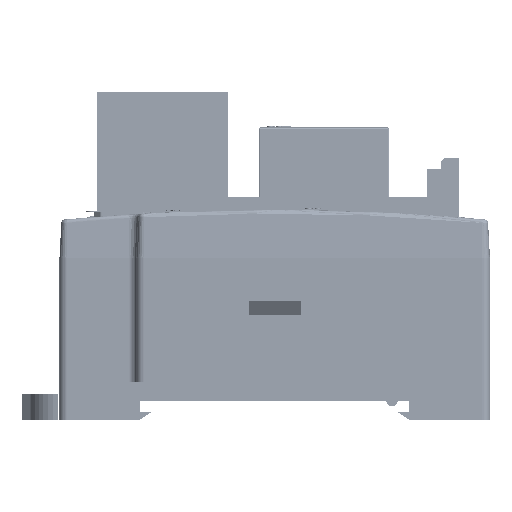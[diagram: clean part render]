
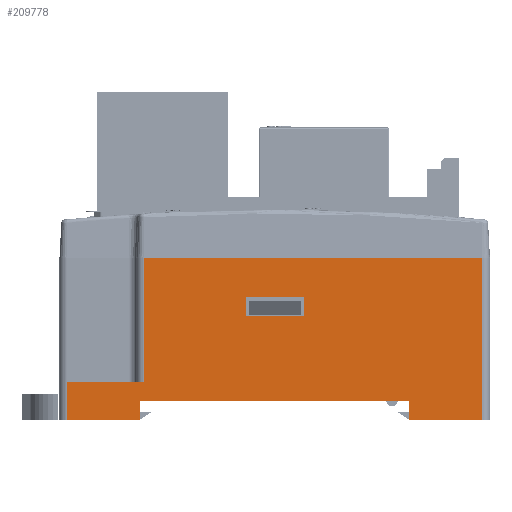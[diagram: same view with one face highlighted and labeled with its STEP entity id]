
A CAD part, front view. The second image highlights one B-rep face of the part: STEP entity #209778.
In plain terms, the highlighted planar face has unit normal (0, -1, 0).
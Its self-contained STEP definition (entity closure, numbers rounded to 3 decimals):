
#12469=DIRECTION('',(0.,0.,-1.));
#12470=VECTOR('',#12469,21.);
#12471=CARTESIAN_POINT('',(27.,-85.,0.));
#12472=LINE('',#12471,#12470);
#12529=DIRECTION('',(0.,0.,-1.));
#12530=VECTOR('',#12529,2.5);
#12531=CARTESIAN_POINT('',(17.5,-85.,-18.5));
#12532=LINE('',#12531,#12530);
#13124=DIRECTION('',(0.,0.,1.));
#13125=VECTOR('',#13124,16.1);
#13126=CARTESIAN_POINT('',(-17.,-85.,-16.1));
#13127=LINE('',#13126,#13125);
#13132=DIRECTION('',(1.,0.,0.));
#13133=VECTOR('',#13132,9.5);
#13134=CARTESIAN_POINT('',(17.5,-85.,-21.));
#13135=LINE('',#13134,#13133);
#13136=DIRECTION('',(1.,0.,0.));
#13137=VECTOR('',#13136,9.5);
#13138=CARTESIAN_POINT('',(-27.,-85.,-21.));
#13139=LINE('',#13138,#13137);
#13144=DIRECTION('',(0.,0.,1.));
#13145=VECTOR('',#13144,2.5);
#13146=CARTESIAN_POINT('',(-3.75,-85.,-7.5));
#13147=LINE('',#13146,#13145);
#13216=DIRECTION('',(1.,0.,0.));
#13217=VECTOR('',#13216,7.5);
#13218=CARTESIAN_POINT('',(-3.75,-85.,-5.));
#13219=LINE('',#13218,#13217);
#13365=DIRECTION('',(0.,0.,-1.));
#13366=VECTOR('',#13365,2.5);
#13367=CARTESIAN_POINT('',(3.75,-85.,-5.));
#13368=LINE('',#13367,#13366);
#13373=DIRECTION('',(-1.,0.,0.));
#13374=VECTOR('',#13373,7.5);
#13375=CARTESIAN_POINT('',(3.75,-85.,-7.5));
#13376=LINE('',#13375,#13374);
#13381=DIRECTION('',(-1.,0.,0.));
#13382=VECTOR('',#13381,35.);
#13383=CARTESIAN_POINT('',(17.5,-85.,-18.5));
#13384=LINE('',#13383,#13382);
#13389=DIRECTION('',(0.,0.,1.));
#13390=VECTOR('',#13389,2.5);
#13391=CARTESIAN_POINT('',(-17.5,-85.,-21.));
#13392=LINE('',#13391,#13390);
#80267=DIRECTION('',(1.,0.,0.));
#80268=VECTOR('',#80267,10.);
#80269=CARTESIAN_POINT('',(-27.,-85.,-16.1));
#80270=LINE('',#80269,#80268);
#80304=DIRECTION('',(0.,0.,1.));
#80305=VECTOR('',#80304,4.9);
#80306=CARTESIAN_POINT('',(-27.,-85.,-21.));
#80307=LINE('',#80306,#80305);
#80397=DIRECTION('',(1.,0.,0.));
#80398=VECTOR('',#80397,44.);
#80399=CARTESIAN_POINT('',(-17.,-85.,0.));
#80400=LINE('',#80399,#80398);
#186379=CARTESIAN_POINT('',(-17.5,-85.,-21.));
#186380=VERTEX_POINT('',#186379);
#186381=CARTESIAN_POINT('',(-27.,-85.,-21.));
#186382=VERTEX_POINT('',#186381);
#186409=CARTESIAN_POINT('',(27.,-85.,-21.));
#186410=VERTEX_POINT('',#186409);
#186411=CARTESIAN_POINT('',(17.5,-85.,-21.));
#186412=VERTEX_POINT('',#186411);
#186481=CARTESIAN_POINT('',(17.5,-85.,-18.5));
#186482=CARTESIAN_POINT('',(-17.5,-85.,-18.5));
#186483=VERTEX_POINT('',#186481);
#186484=VERTEX_POINT('',#186482);
#186485=CARTESIAN_POINT('',(-27.,-85.,-16.1));
#186486=VERTEX_POINT('',#186485);
#186487=CARTESIAN_POINT('',(-17.,-85.,-16.1));
#186488=VERTEX_POINT('',#186487);
#186489=CARTESIAN_POINT('',(-3.75,-85.,-7.5));
#186490=CARTESIAN_POINT('',(-3.75,-85.,-5.));
#186491=VERTEX_POINT('',#186489);
#186492=VERTEX_POINT('',#186490);
#186493=CARTESIAN_POINT('',(3.75,-85.,-7.5));
#186494=VERTEX_POINT('',#186493);
#186495=CARTESIAN_POINT('',(3.75,-85.,-5.));
#186496=VERTEX_POINT('',#186495);
#193704=CARTESIAN_POINT('',(-17.,-85.,0.));
#193705=CARTESIAN_POINT('',(27.,-85.,0.));
#193706=VERTEX_POINT('',#193704);
#193707=VERTEX_POINT('',#193705);
#209745=CARTESIAN_POINT('',(0.,-85.,-10.5));
#209746=DIRECTION('',(0.,1.,0.));
#209747=DIRECTION('',(1.,0.,0.));
#209748=AXIS2_PLACEMENT_3D('',#209745,#209746,#209747);
#209749=PLANE('',#209748);
#209750=ORIENTED_EDGE('',*,*,#208556,.T.);
#209751=ORIENTED_EDGE('',*,*,#208577,.F.);
#209752=ORIENTED_EDGE('',*,*,#208675,.F.);
#209754=ORIENTED_EDGE('',*,*,#209753,.T.);
#209756=ORIENTED_EDGE('',*,*,#209755,.F.);
#209758=ORIENTED_EDGE('',*,*,#209757,.F.);
#209760=ORIENTED_EDGE('',*,*,#209759,.T.);
#209762=ORIENTED_EDGE('',*,*,#209761,.T.);
#209763=ORIENTED_EDGE('',*,*,#209729,.T.);
#209765=ORIENTED_EDGE('',*,*,#209764,.T.);
#209766=EDGE_LOOP('',(#209750,#209751,#209752,#209754,#209756,#209758,#209760,
#209762,#209763,#209765));
#209767=FACE_OUTER_BOUND('',#209766,.F.);
#209769=ORIENTED_EDGE('',*,*,#209768,.F.);
#209771=ORIENTED_EDGE('',*,*,#209770,.F.);
#209773=ORIENTED_EDGE('',*,*,#209772,.F.);
#209775=ORIENTED_EDGE('',*,*,#209774,.F.);
#209776=EDGE_LOOP('',(#209769,#209771,#209773,#209775));
#209777=FACE_BOUND('',#209776,.F.);
#209778=ADVANCED_FACE('',(#209767,#209777),#209749,.F.);
#208556=EDGE_CURVE('',#193707,#186410,#12472,.T.);
#208577=EDGE_CURVE('',#186412,#186410,#13135,.T.);
#208675=EDGE_CURVE('',#186483,#186412,#12532,.T.);
#209729=EDGE_CURVE('',#186488,#193706,#13127,.T.);
#209753=EDGE_CURVE('',#186483,#186484,#13384,.T.);
#209755=EDGE_CURVE('',#186380,#186484,#13392,.T.);
#209757=EDGE_CURVE('',#186382,#186380,#13139,.T.);
#209759=EDGE_CURVE('',#186382,#186486,#80307,.T.);
#209761=EDGE_CURVE('',#186486,#186488,#80270,.T.);
#209764=EDGE_CURVE('',#193706,#193707,#80400,.T.);
#209768=EDGE_CURVE('',#186491,#186492,#13147,.T.);
#209770=EDGE_CURVE('',#186494,#186491,#13376,.T.);
#209772=EDGE_CURVE('',#186496,#186494,#13368,.T.);
#209774=EDGE_CURVE('',#186492,#186496,#13219,.T.);
